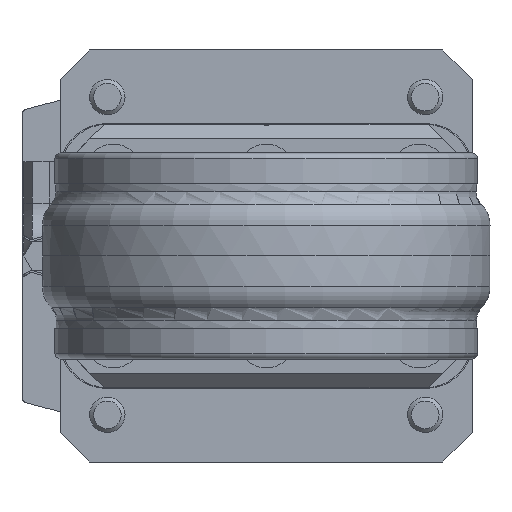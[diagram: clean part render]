
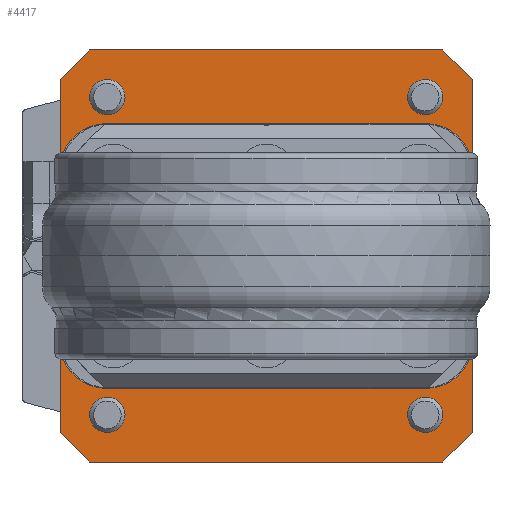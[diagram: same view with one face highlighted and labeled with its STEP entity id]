
A CAD part, front view. The second image highlights one B-rep face of the part: STEP entity #4417.
In plain terms, the highlighted planar face has unit normal (0, -1, 0) as drawn and (-1, 0, 0) by its records, which use the part's own axes.
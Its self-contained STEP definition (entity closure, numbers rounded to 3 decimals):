
#4417=ADVANCED_FACE('',(#7461,#7462,#7463,#7464,#7465,#7466,#7467,#7468,
#7469),#4973,.F.);
#4973=PLANE('',#16525);
#5680=LINE('',#24372,#6641);
#5681=LINE('',#24374,#6642);
#5682=LINE('',#24376,#6643);
#5683=LINE('',#24378,#6644);
#5684=LINE('',#24380,#6645);
#5685=LINE('',#24382,#6646);
#5686=LINE('',#24384,#6647);
#5687=LINE('',#24386,#6648);
#5688=LINE('',#24388,#6649);
#5689=LINE('',#24390,#6650);
#5690=LINE('',#24392,#6651);
#6641=VECTOR('',#19209,1.);
#6642=VECTOR('',#19210,1.);
#6643=VECTOR('',#19211,1.);
#6644=VECTOR('',#19212,1.);
#6645=VECTOR('',#19213,1.);
#6646=VECTOR('',#19214,1.);
#6647=VECTOR('',#19215,1.);
#6648=VECTOR('',#19216,1.);
#6649=VECTOR('',#19217,1.);
#6650=VECTOR('',#19218,1.);
#6651=VECTOR('',#19219,1.);
#7461=FACE_BOUND('',#8350,.T.);
#7462=FACE_BOUND('',#8351,.T.);
#7463=FACE_BOUND('',#8352,.T.);
#7464=FACE_BOUND('',#8353,.T.);
#7465=FACE_BOUND('',#8354,.T.);
#7466=FACE_BOUND('',#8355,.T.);
#7467=FACE_BOUND('',#8356,.T.);
#7468=FACE_BOUND('',#8357,.T.);
#7469=FACE_BOUND('',#8358,.T.);
#8350=EDGE_LOOP('',(#10897));
#8351=EDGE_LOOP('',(#10898));
#8352=EDGE_LOOP('',(#10899));
#8353=EDGE_LOOP('',(#10900));
#8354=EDGE_LOOP('',(#10901));
#8355=EDGE_LOOP('',(#10902));
#8356=EDGE_LOOP('',(#10903));
#8357=EDGE_LOOP('',(#10904,#10905,#10906,#10907,#10908,#10909,#10910,#10911,
#10912,#10913,#10914,#10915));
#8358=EDGE_LOOP('',(#10916));
#10897=ORIENTED_EDGE('',*,*,#14510,.F.);
#10898=ORIENTED_EDGE('',*,*,#14511,.T.);
#10899=ORIENTED_EDGE('',*,*,#14512,.T.);
#10900=ORIENTED_EDGE('',*,*,#14513,.F.);
#10901=ORIENTED_EDGE('',*,*,#14514,.T.);
#10902=ORIENTED_EDGE('',*,*,#14515,.F.);
#10903=ORIENTED_EDGE('',*,*,#14516,.F.);
#10904=ORIENTED_EDGE('',*,*,#14490,.F.);
#10905=ORIENTED_EDGE('',*,*,#14517,.T.);
#10906=ORIENTED_EDGE('',*,*,#14518,.F.);
#10907=ORIENTED_EDGE('',*,*,#14519,.T.);
#10908=ORIENTED_EDGE('',*,*,#14520,.F.);
#10909=ORIENTED_EDGE('',*,*,#14521,.F.);
#10910=ORIENTED_EDGE('',*,*,#14522,.T.);
#10911=ORIENTED_EDGE('',*,*,#14523,.T.);
#10912=ORIENTED_EDGE('',*,*,#14524,.T.);
#10913=ORIENTED_EDGE('',*,*,#14525,.F.);
#10914=ORIENTED_EDGE('',*,*,#14526,.F.);
#10915=ORIENTED_EDGE('',*,*,#14527,.T.);
#10916=ORIENTED_EDGE('',*,*,#14528,.T.);
#12979=VERTEX_POINT('',#24316);
#12980=VERTEX_POINT('',#24318);
#12999=VERTEX_POINT('',#24359);
#13000=VERTEX_POINT('',#24361);
#13001=VERTEX_POINT('',#24363);
#13002=VERTEX_POINT('',#24365);
#13003=VERTEX_POINT('',#24367);
#13004=VERTEX_POINT('',#24369);
#13005=VERTEX_POINT('',#24371);
#13006=VERTEX_POINT('',#24373);
#13007=VERTEX_POINT('',#24375);
#13008=VERTEX_POINT('',#24377);
#13009=VERTEX_POINT('',#24379);
#13010=VERTEX_POINT('',#24381);
#13011=VERTEX_POINT('',#24383);
#13012=VERTEX_POINT('',#24385);
#13013=VERTEX_POINT('',#24387);
#13014=VERTEX_POINT('',#24389);
#13015=VERTEX_POINT('',#24391);
#13016=VERTEX_POINT('',#24394);
#14490=EDGE_CURVE('',#12979,#12980,#15518,.T.);
#14510=EDGE_CURVE('',#12999,#12999,#15529,.T.);
#14511=EDGE_CURVE('',#13000,#13000,#15530,.T.);
#14512=EDGE_CURVE('',#13001,#13001,#15531,.T.);
#14513=EDGE_CURVE('',#13002,#13002,#15532,.T.);
#14514=EDGE_CURVE('',#13003,#13003,#15533,.T.);
#14515=EDGE_CURVE('',#13004,#13004,#15534,.T.);
#14516=EDGE_CURVE('',#13005,#13005,#15535,.T.);
#14517=EDGE_CURVE('',#12979,#13006,#5680,.T.);
#14518=EDGE_CURVE('',#13007,#13006,#5681,.T.);
#14519=EDGE_CURVE('',#13007,#13008,#5682,.T.);
#14520=EDGE_CURVE('',#13009,#13008,#5683,.T.);
#14521=EDGE_CURVE('',#13010,#13009,#5684,.T.);
#14522=EDGE_CURVE('',#13010,#13011,#5685,.T.);
#14523=EDGE_CURVE('',#13011,#13012,#5686,.T.);
#14524=EDGE_CURVE('',#13012,#13013,#5687,.T.);
#14525=EDGE_CURVE('',#13014,#13013,#5688,.T.);
#14526=EDGE_CURVE('',#13015,#13014,#5689,.T.);
#14527=EDGE_CURVE('',#13015,#12980,#5690,.T.);
#14528=EDGE_CURVE('',#13016,#13016,#15536,.T.);
#15518=CIRCLE('',#16504,16.553);
#15529=CIRCLE('',#16517,2.2);
#15530=CIRCLE('',#16518,3.);
#15531=CIRCLE('',#16519,2.2);
#15532=CIRCLE('',#16520,3.);
#15533=CIRCLE('',#16521,2.2);
#15534=CIRCLE('',#16522,3.);
#15535=CIRCLE('',#16523,2.2);
#15536=CIRCLE('',#16524,3.);
#16504=AXIS2_PLACEMENT_3D('',#24317,#19160,#19161);
#16517=AXIS2_PLACEMENT_3D('',#24358,#19195,#19196);
#16518=AXIS2_PLACEMENT_3D('',#24360,#19197,#19198);
#16519=AXIS2_PLACEMENT_3D('',#24362,#19199,#19200);
#16520=AXIS2_PLACEMENT_3D('',#24364,#19201,#19202);
#16521=AXIS2_PLACEMENT_3D('',#24366,#19203,#19204);
#16522=AXIS2_PLACEMENT_3D('',#24368,#19205,#19206);
#16523=AXIS2_PLACEMENT_3D('',#24370,#19207,#19208);
#16524=AXIS2_PLACEMENT_3D('',#24393,#19220,#19221);
#16525=AXIS2_PLACEMENT_3D('',#24395,#19222,#19223);
#19160=DIRECTION('',(-1.,0.,0.));
#19161=DIRECTION('',(0.,0.,1.));
#19195=DIRECTION('',(-1.,0.,0.));
#19196=DIRECTION('',(0.,0.,-1.));
#19197=DIRECTION('',(1.,0.,0.));
#19198=DIRECTION('',(0.,0.,1.));
#19199=DIRECTION('',(1.,0.,0.));
#19200=DIRECTION('',(0.,0.,1.));
#19201=DIRECTION('',(-1.,0.,0.));
#19202=DIRECTION('',(0.,0.,-1.));
#19203=DIRECTION('',(1.,0.,0.));
#19204=DIRECTION('',(0.,0.,-1.));
#19205=DIRECTION('',(-1.,0.,0.));
#19206=DIRECTION('',(0.,0.,1.));
#19207=DIRECTION('',(-1.,0.,0.));
#19208=DIRECTION('',(0.,0.,1.));
#19209=DIRECTION('',(0.,1.,0.));
#19210=DIRECTION('',(0.,0.,1.));
#19211=DIRECTION('',(0.,-0.707,-0.707));
#19212=DIRECTION('',(0.,1.,0.));
#19213=DIRECTION('',(0.,0.707,-0.707));
#19214=DIRECTION('',(0.,0.,1.));
#19215=DIRECTION('',(0.,0.707,0.707));
#19216=DIRECTION('',(0.,1.,0.));
#19217=DIRECTION('',(0.,-0.707,0.707));
#19218=DIRECTION('',(0.,0.,1.));
#19219=DIRECTION('',(0.,-1.,0.));
#19220=DIRECTION('',(1.,0.,0.));
#19221=DIRECTION('',(0.,0.,-1.));
#19222=DIRECTION('',(1.,0.,0.));
#19223=DIRECTION('',(0.,0.,-1.));
#24316=CARTESIAN_POINT('',(0.,16.431,-2.));
#24317=CARTESIAN_POINT('',(0.,0.,0.));
#24318=CARTESIAN_POINT('',(0.,16.431,2.));
#24358=CARTESIAN_POINT('',(0.,-18.,18.));
#24359=CARTESIAN_POINT('',(0.,-18.,15.8));
#24360=CARTESIAN_POINT('',(0.,-27.,27.));
#24361=CARTESIAN_POINT('',(0.,-27.,30.));
#24362=CARTESIAN_POINT('',(0.,-18.,-18.));
#24363=CARTESIAN_POINT('',(0.,-18.,-15.8));
#24364=CARTESIAN_POINT('',(0.,-27.,-27.));
#24365=CARTESIAN_POINT('',(0.,-27.,-30.));
#24366=CARTESIAN_POINT('',(0.,18.,18.));
#24367=CARTESIAN_POINT('',(0.,18.,15.8));
#24368=CARTESIAN_POINT('',(0.,27.,27.));
#24369=CARTESIAN_POINT('',(0.,27.,30.));
#24370=CARTESIAN_POINT('',(0.,18.,-18.));
#24371=CARTESIAN_POINT('',(0.,18.,-15.8));
#24372=CARTESIAN_POINT('',(0.,16.431,-2.));
#24373=CARTESIAN_POINT('',(0.,35.,-2.));
#24374=CARTESIAN_POINT('',(0.,35.,-35.));
#24375=CARTESIAN_POINT('',(0.,35.,-30.));
#24376=CARTESIAN_POINT('',(0.,35.,-30.));
#24377=CARTESIAN_POINT('',(0.,30.,-35.));
#24378=CARTESIAN_POINT('',(0.,0.,-35.));
#24379=CARTESIAN_POINT('',(0.,-30.,-35.));
#24380=CARTESIAN_POINT('',(0.,-35.,-30.));
#24381=CARTESIAN_POINT('',(0.,-35.,-30.));
#24382=CARTESIAN_POINT('',(0.,-35.,-35.));
#24383=CARTESIAN_POINT('',(0.,-35.,30.));
#24384=CARTESIAN_POINT('',(0.,-35.,30.));
#24385=CARTESIAN_POINT('',(0.,-30.,35.));
#24386=CARTESIAN_POINT('',(0.,0.,35.));
#24387=CARTESIAN_POINT('',(0.,30.,35.));
#24388=CARTESIAN_POINT('',(0.,35.,30.));
#24389=CARTESIAN_POINT('',(0.,35.,30.));
#24390=CARTESIAN_POINT('',(0.,35.,-35.));
#24391=CARTESIAN_POINT('',(0.,35.,2.));
#24392=CARTESIAN_POINT('',(0.,35.,2.));
#24393=CARTESIAN_POINT('',(0.,27.,-27.));
#24394=CARTESIAN_POINT('',(0.,27.,-30.));
#24395=CARTESIAN_POINT('',(0.,35.,0.));
